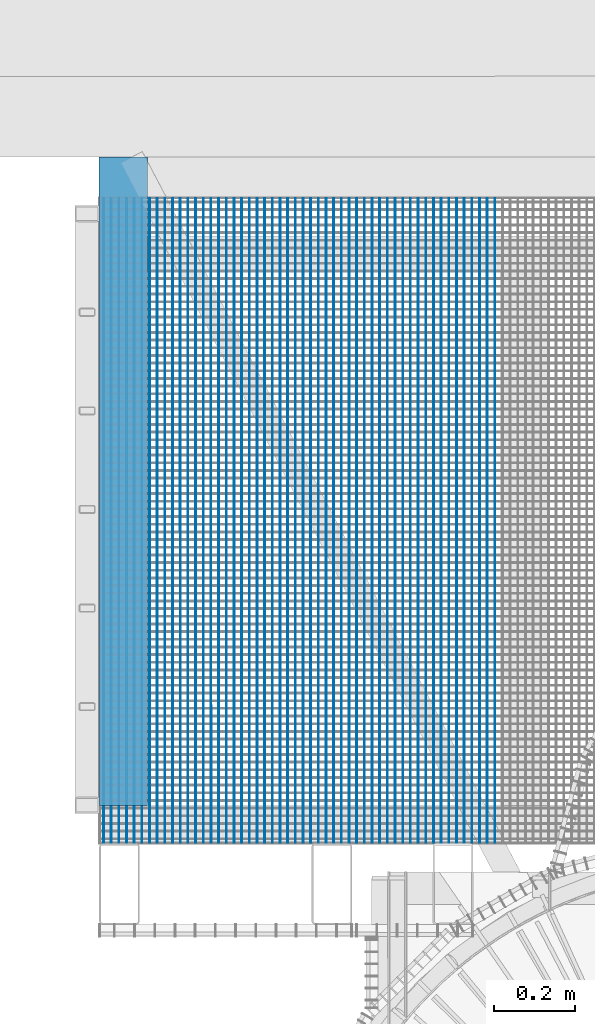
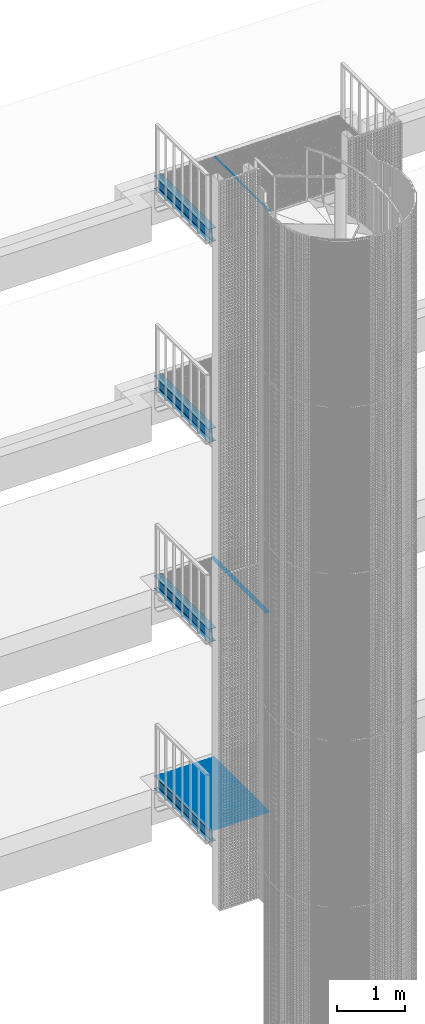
# One storey, part 80 of 1148: 59 beams, 7 elements without a shape of their own.
"""IFC2X3 building model written with IfcOpenShell, lengths in millimetres."""

from ifc_helpers import new_model, si_unit, frame, origin_with_axes, origin_2d_with_axis, place, context, subcontext, project, spatial, rectangle, i_section, extrude, material, type_object, element, aggregate, save


model = new_model("IFC2X3")

# Units and contexts
model_context = context("Model", 3, precision=1e-05, world=origin_with_axes())
body_context = subcontext(model_context, "Body", "Model", "MODEL_VIEW")
ifc_project = project(units=[si_unit("LENGTHUNIT", "METRE", prefix="MILLI"), si_unit("AREAUNIT", "SQUARE_METRE"), si_unit("VOLUMEUNIT", "CUBIC_METRE"), si_unit("MASSUNIT", "GRAM", prefix="KILO"), si_unit("TIMEUNIT", "SECOND"), si_unit("PLANEANGLEUNIT", "RADIAN"), si_unit("SOLIDANGLEUNIT", "STERADIAN"), si_unit("THERMODYNAMICTEMPERATUREUNIT", "DEGREE_CELSIUS"), si_unit("LUMINOUSINTENSITYUNIT", "LUMEN")], contexts=[model_context])

# Site, building, storey
site_placement = place(None, origin_with_axes())
site = spatial("IfcSite", under=ifc_project, at=site_placement, Name="Undefined", CompositionType="ELEMENT")
building_placement = place(site_placement, origin_with_axes())
building = spatial("IfcBuilding", under=site, at=building_placement, Name="Undefined", CompositionType="ELEMENT")
storey_placement = place(building_placement, origin_with_axes())
storey = spatial("IfcBuildingStorey", under=building, at=storey_placement, Name="Undefined", CompositionType="ELEMENT", Elevation=0.0)

# Assembly, beam
assembly_1_placement = place(storey_placement, origin_with_axes())
assembly_1 = element("IfcElementAssembly", 1, at=assembly_1_placement, inside=storey, Name="BORDURE", AssemblyPlace="NOTDEFINED", PredefinedType="NOTDEFINED")
ifc_material = material(Name="STEEL/S235JR")
beam_type_1 = type_object("IfcBeamType", Name="PL2*10", PredefinedType="NOTDEFINED")
beam_1_placement = place(assembly_1_placement, frame((-569.924575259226, 1101.99951347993, 17285.0), z_axis=(0.0, 0.0, 1.0), x_axis=(-4.50599999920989e-06, 0.999999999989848, 0.0)))
beam_1 = element("IfcBeam", 2, at=beam_1_placement, type_object=beam_type_1, material=ifc_material, Name="ENTRETOISE", context=body_context, shape_type="SweptSolid", body=[
    extrude(rectangle(XDim=2.0, YDim=10.0, at=origin_2d_with_axis()), frame((1596.0000000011, -1.35186458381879e-18, -7.27595761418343e-12), z_axis=(-1.0, 0.0, 0.0), x_axis=(0.0, -1.0, 0.0)), (0.0, 0.0, 1.0), 1596.0),
])
aggregate(assembly_1, [beam_1])

# Assembly, beams
assembly_2_placement = place(storey_placement, origin_with_axes())
assembly_2 = element("IfcElementAssembly", 3, at=assembly_2_placement, inside=storey, Name="BORDURE", AssemblyPlace="NOTDEFINED", PredefinedType="NOTDEFINED")
beam_2_placement = place(assembly_2_placement, frame((-626.924575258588, 1101.99923292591, 10085.0), z_axis=(0.0, 0.0, 1.0), x_axis=(-4.50599999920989e-06, 0.999999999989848, 0.0)))
beam_2 = element("IfcBeam", 4, at=beam_2_placement, type_object=beam_type_1, material=ifc_material, Name="ENTRETOISE", context=body_context, shape_type="SweptSolid", body=[
    extrude(rectangle(XDim=2.0, YDim=10.0, at=origin_2d_with_axis()), frame((1596.0000000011, -1.35186458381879e-18, -7.27595761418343e-12), z_axis=(-1.0, 0.0, 0.0), x_axis=(0.0, -1.0, 0.0)), (0.0, 0.0, 1.0), 1596.0),
])
beam_3_placement = place(assembly_2_placement, frame((-607.9245752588, 1101.99932644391, 10085.0), z_axis=(0.0, 0.0, 1.0), x_axis=(-4.50599999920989e-06, 0.999999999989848, 0.0)))
beam_3 = element("IfcBeam", 5, at=beam_3_placement, type_object=beam_type_1, material=ifc_material, Name="ENTRETOISE", context=body_context, shape_type="SweptSolid", body=[
    extrude(rectangle(XDim=2.0, YDim=10.0, at=origin_2d_with_axis()), frame((1596.0000000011, -1.35186458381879e-18, -7.27595761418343e-12), z_axis=(-1.0, 0.0, 0.0), x_axis=(0.0, -1.0, 0.0)), (0.0, 0.0, 1.0), 1596.0),
])
beam_4_placement = place(assembly_2_placement, frame((-588.924575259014, 1101.99941996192, 10085.0), z_axis=(0.0, 0.0, 1.0), x_axis=(-4.50599999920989e-06, 0.999999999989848, 0.0)))
beam_4 = element("IfcBeam", 6, at=beam_4_placement, type_object=beam_type_1, material=ifc_material, Name="ENTRETOISE", context=body_context, shape_type="SweptSolid", body=[
    extrude(rectangle(XDim=2.0, YDim=10.0, at=origin_2d_with_axis()), frame((1596.0000000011, -1.35186458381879e-18, -7.27595761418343e-12), z_axis=(-1.0, 0.0, 0.0), x_axis=(0.0, -1.0, 0.0)), (0.0, 0.0, 1.0), 1596.0),
])
aggregate(assembly_2, [beam_2, beam_3, beam_4])

assembly_3_placement = place(storey_placement, origin_with_axes())
assembly_3 = element("IfcElementAssembly", 7, at=assembly_3_placement, inside=storey, Name="BORDURE", AssemblyPlace="NOTDEFINED", PredefinedType="NOTDEFINED")
beam_5_placement = place(assembly_3_placement, frame((-1538.92457524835, 1101.99474406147, 6485.0), z_axis=(0.0, 0.0, 1.0), x_axis=(-4.50599999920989e-06, 0.999999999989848, 0.0)))
beam_5 = element("IfcBeam", 8, at=beam_5_placement, type_object=beam_type_1, material=ifc_material, Name="ENTRETOISE", context=body_context, shape_type="SweptSolid", body=[
    extrude(rectangle(XDim=2.0, YDim=10.0, at=origin_2d_with_axis()), frame((1596.0000000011, -1.35186458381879e-18, -7.27595761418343e-12), z_axis=(-1.0, 0.0, 0.0), x_axis=(0.0, -1.0, 0.0)), (0.0, 0.0, 1.0), 1596.0),
])
beam_6_placement = place(assembly_3_placement, frame((-1519.92457524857, 1101.99483757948, 6485.0), z_axis=(0.0, 0.0, 1.0), x_axis=(-4.50599999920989e-06, 0.999999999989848, 0.0)))
beam_6 = element("IfcBeam", 9, at=beam_6_placement, type_object=beam_type_1, material=ifc_material, Name="ENTRETOISE", context=body_context, shape_type="SweptSolid", body=[
    extrude(rectangle(XDim=2.0, YDim=10.0, at=origin_2d_with_axis()), frame((1596.0000000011, -1.35186458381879e-18, -7.27595761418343e-12), z_axis=(-1.0, 0.0, 0.0), x_axis=(0.0, -1.0, 0.0)), (0.0, 0.0, 1.0), 1596.0),
])
beam_7_placement = place(assembly_3_placement, frame((-1500.92457524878, 1101.99493109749, 6485.0), z_axis=(0.0, 0.0, 1.0), x_axis=(-4.50599999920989e-06, 0.999999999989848, 0.0)))
beam_7 = element("IfcBeam", 10, at=beam_7_placement, type_object=beam_type_1, material=ifc_material, Name="ENTRETOISE", context=body_context, shape_type="SweptSolid", body=[
    extrude(rectangle(XDim=2.0, YDim=10.0, at=origin_2d_with_axis()), frame((1596.0000000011, -1.35186458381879e-18, -7.27595761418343e-12), z_axis=(-1.0, 0.0, 0.0), x_axis=(0.0, -1.0, 0.0)), (0.0, 0.0, 1.0), 1596.0),
])
beam_8_placement = place(assembly_3_placement, frame((-1481.92457524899, 1101.9950246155, 6485.0), z_axis=(0.0, 0.0, 1.0), x_axis=(-4.50599999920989e-06, 0.999999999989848, 0.0)))
beam_8 = element("IfcBeam", 11, at=beam_8_placement, type_object=beam_type_1, material=ifc_material, Name="ENTRETOISE", context=body_context, shape_type="SweptSolid", body=[
    extrude(rectangle(XDim=2.0, YDim=10.0, at=origin_2d_with_axis()), frame((1596.0000000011, -1.35186458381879e-18, -7.27595761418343e-12), z_axis=(-1.0, 0.0, 0.0), x_axis=(0.0, -1.0, 0.0)), (0.0, 0.0, 1.0), 1596.0),
])
beam_9_placement = place(assembly_3_placement, frame((-1462.92457524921, 1101.99511813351, 6485.0), z_axis=(0.0, 0.0, 1.0), x_axis=(-4.50599999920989e-06, 0.999999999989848, 0.0)))
beam_9 = element("IfcBeam", 12, at=beam_9_placement, type_object=beam_type_1, material=ifc_material, Name="ENTRETOISE", context=body_context, shape_type="SweptSolid", body=[
    extrude(rectangle(XDim=2.0, YDim=10.0, at=origin_2d_with_axis()), frame((1596.0000000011, -1.35186458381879e-18, -7.27595761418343e-12), z_axis=(-1.0, 0.0, 0.0), x_axis=(0.0, -1.0, 0.0)), (0.0, 0.0, 1.0), 1596.0),
])
beam_10_placement = place(assembly_3_placement, frame((-1443.92457524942, 1101.99521165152, 6485.0), z_axis=(0.0, 0.0, 1.0), x_axis=(-4.50599999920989e-06, 0.999999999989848, 0.0)))
beam_10 = element("IfcBeam", 13, at=beam_10_placement, type_object=beam_type_1, material=ifc_material, Name="ENTRETOISE", context=body_context, shape_type="SweptSolid", body=[
    extrude(rectangle(XDim=2.0, YDim=10.0, at=origin_2d_with_axis()), frame((1596.0000000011, -1.35186458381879e-18, -7.27595761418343e-12), z_axis=(-1.0, 0.0, 0.0), x_axis=(0.0, -1.0, 0.0)), (0.0, 0.0, 1.0), 1596.0),
])
beam_11_placement = place(assembly_3_placement, frame((-1424.92457524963, 1101.99530516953, 6485.0), z_axis=(0.0, 0.0, 1.0), x_axis=(-4.50599999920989e-06, 0.999999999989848, 0.0)))
beam_11 = element("IfcBeam", 14, at=beam_11_placement, type_object=beam_type_1, material=ifc_material, Name="ENTRETOISE", context=body_context, shape_type="SweptSolid", body=[
    extrude(rectangle(XDim=2.0, YDim=10.0, at=origin_2d_with_axis()), frame((1596.0000000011, -1.35186458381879e-18, -7.27595761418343e-12), z_axis=(-1.0, 0.0, 0.0), x_axis=(0.0, -1.0, 0.0)), (0.0, 0.0, 1.0), 1596.0),
])
beam_12_placement = place(assembly_3_placement, frame((-1405.92457524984, 1101.99539868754, 6485.0), z_axis=(0.0, 0.0, 1.0), x_axis=(-4.50599999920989e-06, 0.999999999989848, 0.0)))
beam_12 = element("IfcBeam", 15, at=beam_12_placement, type_object=beam_type_1, material=ifc_material, Name="ENTRETOISE", context=body_context, shape_type="SweptSolid", body=[
    extrude(rectangle(XDim=2.0, YDim=10.0, at=origin_2d_with_axis()), frame((1596.0000000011, -1.35186458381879e-18, -7.27595761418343e-12), z_axis=(-1.0, 0.0, 0.0), x_axis=(0.0, -1.0, 0.0)), (0.0, 0.0, 1.0), 1596.0),
])
beam_13_placement = place(assembly_3_placement, frame((-1386.92457525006, 1101.99549220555, 6485.0), z_axis=(0.0, 0.0, 1.0), x_axis=(-4.50599999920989e-06, 0.999999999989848, 0.0)))
beam_13 = element("IfcBeam", 16, at=beam_13_placement, type_object=beam_type_1, material=ifc_material, Name="ENTRETOISE", context=body_context, shape_type="SweptSolid", body=[
    extrude(rectangle(XDim=2.0, YDim=10.0, at=origin_2d_with_axis()), frame((1596.0000000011, -1.35186458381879e-18, -7.27595761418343e-12), z_axis=(-1.0, 0.0, 0.0), x_axis=(0.0, -1.0, 0.0)), (0.0, 0.0, 1.0), 1596.0),
])
beam_14_placement = place(assembly_3_placement, frame((-1367.92457525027, 1101.99558572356, 6485.0), z_axis=(0.0, 0.0, 1.0), x_axis=(-4.50599999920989e-06, 0.999999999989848, 0.0)))
beam_14 = element("IfcBeam", 17, at=beam_14_placement, type_object=beam_type_1, material=ifc_material, Name="ENTRETOISE", context=body_context, shape_type="SweptSolid", body=[
    extrude(rectangle(XDim=2.0, YDim=10.0, at=origin_2d_with_axis()), frame((1596.0000000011, -1.35186458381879e-18, -7.27595761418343e-12), z_axis=(-1.0, 0.0, 0.0), x_axis=(0.0, -1.0, 0.0)), (0.0, 0.0, 1.0), 1596.0),
])
beam_15_placement = place(assembly_3_placement, frame((-1348.92457525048, 1101.99567924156, 6485.0), z_axis=(0.0, 0.0, 1.0), x_axis=(-4.50599999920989e-06, 0.999999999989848, 0.0)))
beam_15 = element("IfcBeam", 18, at=beam_15_placement, type_object=beam_type_1, material=ifc_material, Name="ENTRETOISE", context=body_context, shape_type="SweptSolid", body=[
    extrude(rectangle(XDim=2.0, YDim=10.0, at=origin_2d_with_axis()), frame((1596.0000000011, -1.35186458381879e-18, -7.27595761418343e-12), z_axis=(-1.0, 0.0, 0.0), x_axis=(0.0, -1.0, 0.0)), (0.0, 0.0, 1.0), 1596.0),
])
beam_16_placement = place(assembly_3_placement, frame((-1329.9245752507, 1101.99577275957, 6485.0), z_axis=(0.0, 0.0, 1.0), x_axis=(-4.50599999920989e-06, 0.999999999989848, 0.0)))
beam_16 = element("IfcBeam", 19, at=beam_16_placement, type_object=beam_type_1, material=ifc_material, Name="ENTRETOISE", context=body_context, shape_type="SweptSolid", body=[
    extrude(rectangle(XDim=2.0, YDim=10.0, at=origin_2d_with_axis()), frame((1596.0000000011, -1.35186458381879e-18, -7.27595761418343e-12), z_axis=(-1.0, 0.0, 0.0), x_axis=(0.0, -1.0, 0.0)), (0.0, 0.0, 1.0), 1596.0),
])
beam_17_placement = place(assembly_3_placement, frame((-1310.92457525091, 1101.99586627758, 6485.0), z_axis=(0.0, 0.0, 1.0), x_axis=(-4.50599999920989e-06, 0.999999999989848, 0.0)))
beam_17 = element("IfcBeam", 20, at=beam_17_placement, type_object=beam_type_1, material=ifc_material, Name="ENTRETOISE", context=body_context, shape_type="SweptSolid", body=[
    extrude(rectangle(XDim=2.0, YDim=10.0, at=origin_2d_with_axis()), frame((1596.0000000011, -1.35186458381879e-18, -7.27595761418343e-12), z_axis=(-1.0, 0.0, 0.0), x_axis=(0.0, -1.0, 0.0)), (0.0, 0.0, 1.0), 1596.0),
])
beam_18_placement = place(assembly_3_placement, frame((-1291.92457525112, 1101.99595979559, 6485.0), z_axis=(0.0, 0.0, 1.0), x_axis=(-4.50599999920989e-06, 0.999999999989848, 0.0)))
beam_18 = element("IfcBeam", 21, at=beam_18_placement, type_object=beam_type_1, material=ifc_material, Name="ENTRETOISE", context=body_context, shape_type="SweptSolid", body=[
    extrude(rectangle(XDim=2.0, YDim=10.0, at=origin_2d_with_axis()), frame((1596.0000000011, -1.35186458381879e-18, -7.27595761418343e-12), z_axis=(-1.0, 0.0, 0.0), x_axis=(0.0, -1.0, 0.0)), (0.0, 0.0, 1.0), 1596.0),
])
beam_19_placement = place(assembly_3_placement, frame((-1272.92457525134, 1101.9960533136, 6485.0), z_axis=(0.0, 0.0, 1.0), x_axis=(-4.50599999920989e-06, 0.999999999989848, 0.0)))
beam_19 = element("IfcBeam", 22, at=beam_19_placement, type_object=beam_type_1, material=ifc_material, Name="ENTRETOISE", context=body_context, shape_type="SweptSolid", body=[
    extrude(rectangle(XDim=2.0, YDim=10.0, at=origin_2d_with_axis()), frame((1596.0000000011, -1.35186458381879e-18, -7.27595761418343e-12), z_axis=(-1.0, 0.0, 0.0), x_axis=(0.0, -1.0, 0.0)), (0.0, 0.0, 1.0), 1596.0),
])
beam_20_placement = place(assembly_3_placement, frame((-1253.92457525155, 1101.99614683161, 6485.0), z_axis=(0.0, 0.0, 1.0), x_axis=(-4.50599999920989e-06, 0.999999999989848, 0.0)))
beam_20 = element("IfcBeam", 23, at=beam_20_placement, type_object=beam_type_1, material=ifc_material, Name="ENTRETOISE", context=body_context, shape_type="SweptSolid", body=[
    extrude(rectangle(XDim=2.0, YDim=10.0, at=origin_2d_with_axis()), frame((1596.0000000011, -1.35186458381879e-18, -7.27595761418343e-12), z_axis=(-1.0, 0.0, 0.0), x_axis=(0.0, -1.0, 0.0)), (0.0, 0.0, 1.0), 1596.0),
])
beam_21_placement = place(assembly_3_placement, frame((-1234.92457525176, 1101.99624034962, 6485.0), z_axis=(0.0, 0.0, 1.0), x_axis=(-4.50599999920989e-06, 0.999999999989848, 0.0)))
beam_21 = element("IfcBeam", 24, at=beam_21_placement, type_object=beam_type_1, material=ifc_material, Name="ENTRETOISE", context=body_context, shape_type="SweptSolid", body=[
    extrude(rectangle(XDim=2.0, YDim=10.0, at=origin_2d_with_axis()), frame((1596.0000000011, -1.35186458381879e-18, -7.27595761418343e-12), z_axis=(-1.0, 0.0, 0.0), x_axis=(0.0, -1.0, 0.0)), (0.0, 0.0, 1.0), 1596.0),
])
beam_22_placement = place(assembly_3_placement, frame((-1215.92457525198, 1101.99633386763, 6485.0), z_axis=(0.0, 0.0, 1.0), x_axis=(-4.50599999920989e-06, 0.999999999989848, 0.0)))
beam_22 = element("IfcBeam", 25, at=beam_22_placement, type_object=beam_type_1, material=ifc_material, Name="ENTRETOISE", context=body_context, shape_type="SweptSolid", body=[
    extrude(rectangle(XDim=2.0, YDim=10.0, at=origin_2d_with_axis()), frame((1596.0000000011, -1.35186458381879e-18, -7.27595761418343e-12), z_axis=(-1.0, 0.0, 0.0), x_axis=(0.0, -1.0, 0.0)), (0.0, 0.0, 1.0), 1596.0),
])
beam_23_placement = place(assembly_3_placement, frame((-1196.92457525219, 1101.99642738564, 6485.0), z_axis=(0.0, 0.0, 1.0), x_axis=(-4.50599999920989e-06, 0.999999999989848, 0.0)))
beam_23 = element("IfcBeam", 26, at=beam_23_placement, type_object=beam_type_1, material=ifc_material, Name="ENTRETOISE", context=body_context, shape_type="SweptSolid", body=[
    extrude(rectangle(XDim=2.0, YDim=10.0, at=origin_2d_with_axis()), frame((1596.0000000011, -1.35186458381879e-18, -7.27595761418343e-12), z_axis=(-1.0, 0.0, 0.0), x_axis=(0.0, -1.0, 0.0)), (0.0, 0.0, 1.0), 1596.0),
])
beam_24_placement = place(assembly_3_placement, frame((-1177.9245752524, 1101.99652090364, 6485.0), z_axis=(0.0, 0.0, 1.0), x_axis=(-4.50599999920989e-06, 0.999999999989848, 0.0)))
beam_24 = element("IfcBeam", 27, at=beam_24_placement, type_object=beam_type_1, material=ifc_material, Name="ENTRETOISE", context=body_context, shape_type="SweptSolid", body=[
    extrude(rectangle(XDim=2.0, YDim=10.0, at=origin_2d_with_axis()), frame((1596.0000000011, -1.35186458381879e-18, -7.27595761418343e-12), z_axis=(-1.0, 0.0, 0.0), x_axis=(0.0, -1.0, 0.0)), (0.0, 0.0, 1.0), 1596.0),
])
beam_25_placement = place(assembly_3_placement, frame((-1158.92457525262, 1101.99661442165, 6485.0), z_axis=(0.0, 0.0, 1.0), x_axis=(-4.50599999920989e-06, 0.999999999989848, 0.0)))
beam_25 = element("IfcBeam", 28, at=beam_25_placement, type_object=beam_type_1, material=ifc_material, Name="ENTRETOISE", context=body_context, shape_type="SweptSolid", body=[
    extrude(rectangle(XDim=2.0, YDim=10.0, at=origin_2d_with_axis()), frame((1596.0000000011, -1.35186458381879e-18, -7.27595761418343e-12), z_axis=(-1.0, 0.0, 0.0), x_axis=(0.0, -1.0, 0.0)), (0.0, 0.0, 1.0), 1596.0),
])
beam_26_placement = place(assembly_3_placement, frame((-1139.92457525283, 1101.99670793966, 6485.0), z_axis=(0.0, 0.0, 1.0), x_axis=(-4.50599999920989e-06, 0.999999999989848, 0.0)))
beam_26 = element("IfcBeam", 29, at=beam_26_placement, type_object=beam_type_1, material=ifc_material, Name="ENTRETOISE", context=body_context, shape_type="SweptSolid", body=[
    extrude(rectangle(XDim=2.0, YDim=10.0, at=origin_2d_with_axis()), frame((1596.0000000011, -1.35186458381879e-18, -7.27595761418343e-12), z_axis=(-1.0, 0.0, 0.0), x_axis=(0.0, -1.0, 0.0)), (0.0, 0.0, 1.0), 1596.0),
])
beam_27_placement = place(assembly_3_placement, frame((-1120.92457525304, 1101.99680145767, 6485.0), z_axis=(0.0, 0.0, 1.0), x_axis=(-4.50599999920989e-06, 0.999999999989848, 0.0)))
beam_27 = element("IfcBeam", 30, at=beam_27_placement, type_object=beam_type_1, material=ifc_material, Name="ENTRETOISE", context=body_context, shape_type="SweptSolid", body=[
    extrude(rectangle(XDim=2.0, YDim=10.0, at=origin_2d_with_axis()), frame((1596.0000000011, -1.35186458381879e-18, -7.27595761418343e-12), z_axis=(-1.0, 0.0, 0.0), x_axis=(0.0, -1.0, 0.0)), (0.0, 0.0, 1.0), 1596.0),
])
beam_28_placement = place(assembly_3_placement, frame((-1101.92457525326, 1101.99689497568, 6485.0), z_axis=(0.0, 0.0, 1.0), x_axis=(-4.50599999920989e-06, 0.999999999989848, 0.0)))
beam_28 = element("IfcBeam", 31, at=beam_28_placement, type_object=beam_type_1, material=ifc_material, Name="ENTRETOISE", context=body_context, shape_type="SweptSolid", body=[
    extrude(rectangle(XDim=2.0, YDim=10.0, at=origin_2d_with_axis()), frame((1596.0000000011, -1.35186458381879e-18, -7.27595761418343e-12), z_axis=(-1.0, 0.0, 0.0), x_axis=(0.0, -1.0, 0.0)), (0.0, 0.0, 1.0), 1596.0),
])
beam_29_placement = place(assembly_3_placement, frame((-1082.92457525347, 1101.99698849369, 6485.0), z_axis=(0.0, 0.0, 1.0), x_axis=(-4.50599999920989e-06, 0.999999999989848, 0.0)))
beam_29 = element("IfcBeam", 32, at=beam_29_placement, type_object=beam_type_1, material=ifc_material, Name="ENTRETOISE", context=body_context, shape_type="SweptSolid", body=[
    extrude(rectangle(XDim=2.0, YDim=10.0, at=origin_2d_with_axis()), frame((1596.0000000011, -1.35186458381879e-18, -7.27595761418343e-12), z_axis=(-1.0, 0.0, 0.0), x_axis=(0.0, -1.0, 0.0)), (0.0, 0.0, 1.0), 1596.0),
])
beam_30_placement = place(assembly_3_placement, frame((-1063.92457525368, 1101.9970820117, 6485.0), z_axis=(0.0, 0.0, 1.0), x_axis=(-4.50599999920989e-06, 0.999999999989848, 0.0)))
beam_30 = element("IfcBeam", 33, at=beam_30_placement, type_object=beam_type_1, material=ifc_material, Name="ENTRETOISE", context=body_context, shape_type="SweptSolid", body=[
    extrude(rectangle(XDim=2.0, YDim=10.0, at=origin_2d_with_axis()), frame((1596.0000000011, -1.35186458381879e-18, -7.27595761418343e-12), z_axis=(-1.0, 0.0, 0.0), x_axis=(0.0, -1.0, 0.0)), (0.0, 0.0, 1.0), 1596.0),
])
beam_31_placement = place(assembly_3_placement, frame((-1044.9245752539, 1101.99717552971, 6485.0), z_axis=(0.0, 0.0, 1.0), x_axis=(-4.50599999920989e-06, 0.999999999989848, 0.0)))
beam_31 = element("IfcBeam", 34, at=beam_31_placement, type_object=beam_type_1, material=ifc_material, Name="ENTRETOISE", context=body_context, shape_type="SweptSolid", body=[
    extrude(rectangle(XDim=2.0, YDim=10.0, at=origin_2d_with_axis()), frame((1596.0000000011, -1.35186458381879e-18, -7.27595761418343e-12), z_axis=(-1.0, 0.0, 0.0), x_axis=(0.0, -1.0, 0.0)), (0.0, 0.0, 1.0), 1596.0),
])
beam_32_placement = place(assembly_3_placement, frame((-1025.92457525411, 1101.99726904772, 6485.0), z_axis=(0.0, 0.0, 1.0), x_axis=(-4.50599999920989e-06, 0.999999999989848, 0.0)))
beam_32 = element("IfcBeam", 35, at=beam_32_placement, type_object=beam_type_1, material=ifc_material, Name="ENTRETOISE", context=body_context, shape_type="SweptSolid", body=[
    extrude(rectangle(XDim=2.0, YDim=10.0, at=origin_2d_with_axis()), frame((1596.0000000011, -1.35186458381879e-18, -7.27595761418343e-12), z_axis=(-1.0, 0.0, 0.0), x_axis=(0.0, -1.0, 0.0)), (0.0, 0.0, 1.0), 1596.0),
])
beam_33_placement = place(assembly_3_placement, frame((-1006.92457525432, 1101.99736256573, 6485.0), z_axis=(0.0, 0.0, 1.0), x_axis=(-4.50599999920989e-06, 0.999999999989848, 0.0)))
beam_33 = element("IfcBeam", 36, at=beam_33_placement, type_object=beam_type_1, material=ifc_material, Name="ENTRETOISE", context=body_context, shape_type="SweptSolid", body=[
    extrude(rectangle(XDim=2.0, YDim=10.0, at=origin_2d_with_axis()), frame((1596.0000000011, -1.35186458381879e-18, -7.27595761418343e-12), z_axis=(-1.0, 0.0, 0.0), x_axis=(0.0, -1.0, 0.0)), (0.0, 0.0, 1.0), 1596.0),
])
beam_34_placement = place(assembly_3_placement, frame((-987.924575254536, 1101.99745608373, 6485.0), z_axis=(0.0, 0.0, 1.0), x_axis=(-4.50599999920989e-06, 0.999999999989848, 0.0)))
beam_34 = element("IfcBeam", 37, at=beam_34_placement, type_object=beam_type_1, material=ifc_material, Name="ENTRETOISE", context=body_context, shape_type="SweptSolid", body=[
    extrude(rectangle(XDim=2.0, YDim=10.0, at=origin_2d_with_axis()), frame((1596.0000000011, -1.35186458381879e-18, -7.27595761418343e-12), z_axis=(-1.0, 0.0, 0.0), x_axis=(0.0, -1.0, 0.0)), (0.0, 0.0, 1.0), 1596.0),
])
beam_35_placement = place(assembly_3_placement, frame((-968.924575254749, 1101.99754960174, 6485.0), z_axis=(0.0, 0.0, 1.0), x_axis=(-4.50599999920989e-06, 0.999999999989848, 0.0)))
beam_35 = element("IfcBeam", 38, at=beam_35_placement, type_object=beam_type_1, material=ifc_material, Name="ENTRETOISE", context=body_context, shape_type="SweptSolid", body=[
    extrude(rectangle(XDim=2.0, YDim=10.0, at=origin_2d_with_axis()), frame((1596.0000000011, -1.35186458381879e-18, -7.27595761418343e-12), z_axis=(-1.0, 0.0, 0.0), x_axis=(0.0, -1.0, 0.0)), (0.0, 0.0, 1.0), 1596.0),
])
beam_36_placement = place(assembly_3_placement, frame((-949.924575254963, 1101.99764311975, 6485.0), z_axis=(0.0, 0.0, 1.0), x_axis=(-4.50599999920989e-06, 0.999999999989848, 0.0)))
beam_36 = element("IfcBeam", 39, at=beam_36_placement, type_object=beam_type_1, material=ifc_material, Name="ENTRETOISE", context=body_context, shape_type="SweptSolid", body=[
    extrude(rectangle(XDim=2.0, YDim=10.0, at=origin_2d_with_axis()), frame((1596.0000000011, -1.35186458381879e-18, -7.27595761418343e-12), z_axis=(-1.0, 0.0, 0.0), x_axis=(0.0, -1.0, 0.0)), (0.0, 0.0, 1.0), 1596.0),
])
beam_37_placement = place(assembly_3_placement, frame((-930.924575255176, 1101.99773663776, 6485.0), z_axis=(0.0, 0.0, 1.0), x_axis=(-4.50599999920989e-06, 0.999999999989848, 0.0)))
beam_37 = element("IfcBeam", 40, at=beam_37_placement, type_object=beam_type_1, material=ifc_material, Name="ENTRETOISE", context=body_context, shape_type="SweptSolid", body=[
    extrude(rectangle(XDim=2.0, YDim=10.0, at=origin_2d_with_axis()), frame((1596.0000000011, -1.35186458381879e-18, -7.27595761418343e-12), z_axis=(-1.0, 0.0, 0.0), x_axis=(0.0, -1.0, 0.0)), (0.0, 0.0, 1.0), 1596.0),
])
beam_38_placement = place(assembly_3_placement, frame((-911.924575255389, 1101.99783015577, 6485.0), z_axis=(0.0, 0.0, 1.0), x_axis=(-4.50599999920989e-06, 0.999999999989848, 0.0)))
beam_38 = element("IfcBeam", 41, at=beam_38_placement, type_object=beam_type_1, material=ifc_material, Name="ENTRETOISE", context=body_context, shape_type="SweptSolid", body=[
    extrude(rectangle(XDim=2.0, YDim=10.0, at=origin_2d_with_axis()), frame((1596.0000000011, -1.35186458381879e-18, -7.27595761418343e-12), z_axis=(-1.0, 0.0, 0.0), x_axis=(0.0, -1.0, 0.0)), (0.0, 0.0, 1.0), 1596.0),
])
beam_39_placement = place(assembly_3_placement, frame((-892.924575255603, 1101.99792367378, 6485.0), z_axis=(0.0, 0.0, 1.0), x_axis=(-4.50599999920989e-06, 0.999999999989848, 0.0)))
beam_39 = element("IfcBeam", 42, at=beam_39_placement, type_object=beam_type_1, material=ifc_material, Name="ENTRETOISE", context=body_context, shape_type="SweptSolid", body=[
    extrude(rectangle(XDim=2.0, YDim=10.0, at=origin_2d_with_axis()), frame((1596.0000000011, -1.35186458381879e-18, -7.27595761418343e-12), z_axis=(-1.0, 0.0, 0.0), x_axis=(0.0, -1.0, 0.0)), (0.0, 0.0, 1.0), 1596.0),
])
beam_40_placement = place(assembly_3_placement, frame((-873.924575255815, 1101.99801719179, 6485.0), z_axis=(0.0, 0.0, 1.0), x_axis=(-4.50599999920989e-06, 0.999999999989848, 0.0)))
beam_40 = element("IfcBeam", 43, at=beam_40_placement, type_object=beam_type_1, material=ifc_material, Name="ENTRETOISE", context=body_context, shape_type="SweptSolid", body=[
    extrude(rectangle(XDim=2.0, YDim=10.0, at=origin_2d_with_axis()), frame((1596.0000000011, -1.35186458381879e-18, -7.27595761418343e-12), z_axis=(-1.0, 0.0, 0.0), x_axis=(0.0, -1.0, 0.0)), (0.0, 0.0, 1.0), 1596.0),
])
beam_41_placement = place(assembly_3_placement, frame((-854.92457525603, 1101.9981107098, 6485.0), z_axis=(0.0, 0.0, 1.0), x_axis=(-4.50599999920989e-06, 0.999999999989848, 0.0)))
beam_41 = element("IfcBeam", 44, at=beam_41_placement, type_object=beam_type_1, material=ifc_material, Name="ENTRETOISE", context=body_context, shape_type="SweptSolid", body=[
    extrude(rectangle(XDim=2.0, YDim=10.0, at=origin_2d_with_axis()), frame((1596.0000000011, -1.35186458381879e-18, -7.27595761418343e-12), z_axis=(-1.0, 0.0, 0.0), x_axis=(0.0, -1.0, 0.0)), (0.0, 0.0, 1.0), 1596.0),
])
beam_42_placement = place(assembly_3_placement, frame((-835.924575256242, 1101.99820422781, 6485.0), z_axis=(0.0, 0.0, 1.0), x_axis=(-4.50599999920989e-06, 0.999999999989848, 0.0)))
beam_42 = element("IfcBeam", 45, at=beam_42_placement, type_object=beam_type_1, material=ifc_material, Name="ENTRETOISE", context=body_context, shape_type="SweptSolid", body=[
    extrude(rectangle(XDim=2.0, YDim=10.0, at=origin_2d_with_axis()), frame((1596.0000000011, -1.35186458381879e-18, -7.27595761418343e-12), z_axis=(-1.0, 0.0, 0.0), x_axis=(0.0, -1.0, 0.0)), (0.0, 0.0, 1.0), 1596.0),
])
beam_43_placement = place(assembly_3_placement, frame((-816.924575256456, 1101.99829774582, 6485.0), z_axis=(0.0, 0.0, 1.0), x_axis=(-4.50599999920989e-06, 0.999999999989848, 0.0)))
beam_43 = element("IfcBeam", 46, at=beam_43_placement, type_object=beam_type_1, material=ifc_material, Name="ENTRETOISE", context=body_context, shape_type="SweptSolid", body=[
    extrude(rectangle(XDim=2.0, YDim=10.0, at=origin_2d_with_axis()), frame((1596.0000000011, -1.35186458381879e-18, -7.27595761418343e-12), z_axis=(-1.0, 0.0, 0.0), x_axis=(0.0, -1.0, 0.0)), (0.0, 0.0, 1.0), 1596.0),
])
beam_44_placement = place(assembly_3_placement, frame((-797.924575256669, 1101.99839126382, 6485.0), z_axis=(0.0, 0.0, 1.0), x_axis=(-4.50599999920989e-06, 0.999999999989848, 0.0)))
beam_44 = element("IfcBeam", 47, at=beam_44_placement, type_object=beam_type_1, material=ifc_material, Name="ENTRETOISE", context=body_context, shape_type="SweptSolid", body=[
    extrude(rectangle(XDim=2.0, YDim=10.0, at=origin_2d_with_axis()), frame((1596.0000000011, -1.35186458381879e-18, -7.27595761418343e-12), z_axis=(-1.0, 0.0, 0.0), x_axis=(0.0, -1.0, 0.0)), (0.0, 0.0, 1.0), 1596.0),
])
beam_45_placement = place(assembly_3_placement, frame((-778.924575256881, 1101.99848478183, 6485.0), z_axis=(0.0, 0.0, 1.0), x_axis=(-4.50599999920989e-06, 0.999999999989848, 0.0)))
beam_45 = element("IfcBeam", 48, at=beam_45_placement, type_object=beam_type_1, material=ifc_material, Name="ENTRETOISE", context=body_context, shape_type="SweptSolid", body=[
    extrude(rectangle(XDim=2.0, YDim=10.0, at=origin_2d_with_axis()), frame((1596.0000000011, -1.35186458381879e-18, -7.27595761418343e-12), z_axis=(-1.0, 0.0, 0.0), x_axis=(0.0, -1.0, 0.0)), (0.0, 0.0, 1.0), 1596.0),
])
beam_46_placement = place(assembly_3_placement, frame((-759.924575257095, 1101.99857829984, 6485.0), z_axis=(0.0, 0.0, 1.0), x_axis=(-4.50599999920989e-06, 0.999999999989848, 0.0)))
beam_46 = element("IfcBeam", 49, at=beam_46_placement, type_object=beam_type_1, material=ifc_material, Name="ENTRETOISE", context=body_context, shape_type="SweptSolid", body=[
    extrude(rectangle(XDim=2.0, YDim=10.0, at=origin_2d_with_axis()), frame((1596.0000000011, -1.35186458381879e-18, -7.27595761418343e-12), z_axis=(-1.0, 0.0, 0.0), x_axis=(0.0, -1.0, 0.0)), (0.0, 0.0, 1.0), 1596.0),
])
beam_47_placement = place(assembly_3_placement, frame((-740.924575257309, 1101.99867181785, 6485.0), z_axis=(0.0, 0.0, 1.0), x_axis=(-4.50599999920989e-06, 0.999999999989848, 0.0)))
beam_47 = element("IfcBeam", 50, at=beam_47_placement, type_object=beam_type_1, material=ifc_material, Name="ENTRETOISE", context=body_context, shape_type="SweptSolid", body=[
    extrude(rectangle(XDim=2.0, YDim=10.0, at=origin_2d_with_axis()), frame((1596.0000000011, -1.35186458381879e-18, -7.27595761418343e-12), z_axis=(-1.0, 0.0, 0.0), x_axis=(0.0, -1.0, 0.0)), (0.0, 0.0, 1.0), 1596.0),
])
beam_48_placement = place(assembly_3_placement, frame((-721.924575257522, 1101.99876533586, 6485.0), z_axis=(0.0, 0.0, 1.0), x_axis=(-4.50599999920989e-06, 0.999999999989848, 0.0)))
beam_48 = element("IfcBeam", 51, at=beam_48_placement, type_object=beam_type_1, material=ifc_material, Name="ENTRETOISE", context=body_context, shape_type="SweptSolid", body=[
    extrude(rectangle(XDim=2.0, YDim=10.0, at=origin_2d_with_axis()), frame((1596.0000000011, -1.35186458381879e-18, -7.27595761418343e-12), z_axis=(-1.0, 0.0, 0.0), x_axis=(0.0, -1.0, 0.0)), (0.0, 0.0, 1.0), 1596.0),
])
beam_49_placement = place(assembly_3_placement, frame((-702.924575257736, 1101.99885885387, 6485.0), z_axis=(0.0, 0.0, 1.0), x_axis=(-4.50599999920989e-06, 0.999999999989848, 0.0)))
beam_49 = element("IfcBeam", 52, at=beam_49_placement, type_object=beam_type_1, material=ifc_material, Name="ENTRETOISE", context=body_context, shape_type="SweptSolid", body=[
    extrude(rectangle(XDim=2.0, YDim=10.0, at=origin_2d_with_axis()), frame((1596.0000000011, -1.35186458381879e-18, -7.27595761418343e-12), z_axis=(-1.0, 0.0, 0.0), x_axis=(0.0, -1.0, 0.0)), (0.0, 0.0, 1.0), 1596.0),
])
beam_50_placement = place(assembly_3_placement, frame((-683.924575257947, 1101.99895237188, 6485.0), z_axis=(0.0, 0.0, 1.0), x_axis=(-4.50599999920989e-06, 0.999999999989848, 0.0)))
beam_50 = element("IfcBeam", 53, at=beam_50_placement, type_object=beam_type_1, material=ifc_material, Name="ENTRETOISE", context=body_context, shape_type="SweptSolid", body=[
    extrude(rectangle(XDim=2.0, YDim=10.0, at=origin_2d_with_axis()), frame((1596.0000000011, -1.35186458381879e-18, -7.27595761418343e-12), z_axis=(-1.0, 0.0, 0.0), x_axis=(0.0, -1.0, 0.0)), (0.0, 0.0, 1.0), 1596.0),
])
beam_51_placement = place(assembly_3_placement, frame((-664.924575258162, 1101.99904588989, 6485.0), z_axis=(0.0, 0.0, 1.0), x_axis=(-4.50599999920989e-06, 0.999999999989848, 0.0)))
beam_51 = element("IfcBeam", 54, at=beam_51_placement, type_object=beam_type_1, material=ifc_material, Name="ENTRETOISE", context=body_context, shape_type="SweptSolid", body=[
    extrude(rectangle(XDim=2.0, YDim=10.0, at=origin_2d_with_axis()), frame((1596.0000000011, -1.35186458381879e-18, -7.27595761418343e-12), z_axis=(-1.0, 0.0, 0.0), x_axis=(0.0, -1.0, 0.0)), (0.0, 0.0, 1.0), 1596.0),
])
beam_52_placement = place(assembly_3_placement, frame((-645.924575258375, 1101.9991394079, 6485.0), z_axis=(0.0, 0.0, 1.0), x_axis=(-4.50599999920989e-06, 0.999999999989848, 0.0)))
beam_52 = element("IfcBeam", 55, at=beam_52_placement, type_object=beam_type_1, material=ifc_material, Name="ENTRETOISE", context=body_context, shape_type="SweptSolid", body=[
    extrude(rectangle(XDim=2.0, YDim=10.0, at=origin_2d_with_axis()), frame((1596.0000000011, -1.35186458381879e-18, -7.27595761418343e-12), z_axis=(-1.0, 0.0, 0.0), x_axis=(0.0, -1.0, 0.0)), (0.0, 0.0, 1.0), 1596.0),
])
beam_53_placement = place(assembly_3_placement, frame((-626.924575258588, 1101.9992329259, 6485.0), z_axis=(0.0, 0.0, 1.0), x_axis=(-4.50599999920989e-06, 0.999999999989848, 0.0)))
beam_53 = element("IfcBeam", 56, at=beam_53_placement, type_object=beam_type_1, material=ifc_material, Name="ENTRETOISE", context=body_context, shape_type="SweptSolid", body=[
    extrude(rectangle(XDim=2.0, YDim=10.0, at=origin_2d_with_axis()), frame((1596.0000000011, -1.35186458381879e-18, -7.27595761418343e-12), z_axis=(-1.0, 0.0, 0.0), x_axis=(0.0, -1.0, 0.0)), (0.0, 0.0, 1.0), 1596.0),
])
beam_54_placement = place(assembly_3_placement, frame((-607.9245752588, 1101.99932644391, 6485.0), z_axis=(0.0, 0.0, 1.0), x_axis=(-4.50599999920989e-06, 0.999999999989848, 0.0)))
beam_54 = element("IfcBeam", 57, at=beam_54_placement, type_object=beam_type_1, material=ifc_material, Name="ENTRETOISE", context=body_context, shape_type="SweptSolid", body=[
    extrude(rectangle(XDim=2.0, YDim=10.0, at=origin_2d_with_axis()), frame((1596.0000000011, -1.35186458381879e-18, -7.27595761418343e-12), z_axis=(-1.0, 0.0, 0.0), x_axis=(0.0, -1.0, 0.0)), (0.0, 0.0, 1.0), 1596.0),
])
beam_55_placement = place(assembly_3_placement, frame((-588.924575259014, 1101.99941996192, 6485.0), z_axis=(0.0, 0.0, 1.0), x_axis=(-4.50599999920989e-06, 0.999999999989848, 0.0)))
beam_55 = element("IfcBeam", 58, at=beam_55_placement, type_object=beam_type_1, material=ifc_material, Name="ENTRETOISE", context=body_context, shape_type="SweptSolid", body=[
    extrude(rectangle(XDim=2.0, YDim=10.0, at=origin_2d_with_axis()), frame((1596.0000000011, -1.35186458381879e-18, -7.27595761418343e-12), z_axis=(-1.0, 0.0, 0.0), x_axis=(0.0, -1.0, 0.0)), (0.0, 0.0, 1.0), 1596.0),
])
aggregate(assembly_3, [beam_5, beam_6, beam_7, beam_8, beam_9, beam_10, beam_11, beam_12, beam_13, beam_14, beam_15, beam_16, beam_17, beam_18, beam_19, beam_20, beam_21, beam_22, beam_23, beam_24, beam_25, beam_26, beam_27, beam_28, beam_29, beam_30, beam_31, beam_32, beam_33, beam_34, beam_35, beam_36, beam_37, beam_38, beam_39, beam_40, beam_41, beam_42, beam_43, beam_44, beam_45, beam_46, beam_47, beam_48, beam_49, beam_50, beam_51, beam_52, beam_53, beam_54, beam_55])

# Assembly, beam
assembly_4_placement = place(storey_placement, origin_with_axes())
assembly_4 = element("IfcElementAssembly", 59, at=assembly_4_placement, inside=storey, AssemblyPlace="NOTDEFINED", PredefinedType="NOTDEFINED")
beam_type_2 = type_object("IfcBeamType", Name="IPE240", PredefinedType="NOTDEFINED")
beam_56_placement = place(assembly_4_placement, frame((-1489.92041016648, 1194.99494343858, 17120.0), z_axis=(0.0, 0.0, 1.0), x_axis=(-4.50599999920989e-06, 0.999999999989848, 0.0)))
beam_56 = element("IfcBeam", 60, at=beam_56_placement, type_object=beam_type_2, material=ifc_material, Name="EXISTANTS", context=body_context, shape_type="SweptSolid", body=[
    extrude(i_section(OverallWidth=120.0, OverallDepth=240.0, WebThickness=6.199999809, FlangeThickness=9.800000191, FilletRadius=15.0, at=origin_2d_with_axis()), frame((1605.0004478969, 0.0, 3.63797880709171e-12), z_axis=(-1.0, 0.0, 0.0), x_axis=(0.0, -1.0, 0.0)), (0.0, 0.0, 1.0), 1605.0),
])
aggregate(assembly_4, [beam_56])

assembly_5_placement = place(storey_placement, origin_with_axes())
assembly_5 = element("IfcElementAssembly", 61, at=assembly_5_placement, inside=storey, AssemblyPlace="NOTDEFINED", PredefinedType="NOTDEFINED")
beam_57_placement = place(assembly_5_placement, frame((-1489.92041016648, 1194.99494343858, 13520.0), z_axis=(0.0, 0.0, 1.0), x_axis=(-4.50599999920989e-06, 0.999999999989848, 0.0)))
beam_57 = element("IfcBeam", 62, at=beam_57_placement, type_object=beam_type_2, material=ifc_material, Name="EXISTANTS", context=body_context, shape_type="SweptSolid", body=[
    extrude(i_section(OverallWidth=120.0, OverallDepth=240.0, WebThickness=6.199999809, FlangeThickness=9.800000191, FilletRadius=15.0, at=origin_2d_with_axis()), frame((1605.0004478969, 0.0, 3.63797880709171e-12), z_axis=(-1.0, 0.0, 0.0), x_axis=(0.0, -1.0, 0.0)), (0.0, 0.0, 1.0), 1605.0),
])
aggregate(assembly_5, [beam_57])

assembly_6_placement = place(storey_placement, origin_with_axes())
assembly_6 = element("IfcElementAssembly", 63, at=assembly_6_placement, inside=storey, AssemblyPlace="NOTDEFINED", PredefinedType="NOTDEFINED")
beam_58_placement = place(assembly_6_placement, frame((-1489.92041016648, 1194.99494343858, 9920.0), z_axis=(0.0, 0.0, 1.0), x_axis=(-4.50599999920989e-06, 0.999999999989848, 0.0)))
beam_58 = element("IfcBeam", 64, at=beam_58_placement, type_object=beam_type_2, material=ifc_material, Name="EXISTANTS", context=body_context, shape_type="SweptSolid", body=[
    extrude(i_section(OverallWidth=120.0, OverallDepth=240.0, WebThickness=6.199999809, FlangeThickness=9.800000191, FilletRadius=15.0, at=origin_2d_with_axis()), frame((1605.0004478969, 0.0, 3.63797880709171e-12), z_axis=(-1.0, 0.0, 0.0), x_axis=(0.0, -1.0, 0.0)), (0.0, 0.0, 1.0), 1605.0),
])
aggregate(assembly_6, [beam_58])

assembly_7_placement = place(storey_placement, origin_with_axes())
assembly_7 = element("IfcElementAssembly", 65, at=assembly_7_placement, inside=storey, AssemblyPlace="NOTDEFINED", PredefinedType="NOTDEFINED")
beam_59_placement = place(assembly_7_placement, frame((-1489.92041016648, 1194.99494343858, 6320.0), z_axis=(0.0, 0.0, 1.0), x_axis=(-4.50599999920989e-06, 0.999999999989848, 0.0)))
beam_59 = element("IfcBeam", 66, at=beam_59_placement, type_object=beam_type_2, material=ifc_material, Name="EXISTANTS", context=body_context, shape_type="SweptSolid", body=[
    extrude(i_section(OverallWidth=120.0, OverallDepth=240.0, WebThickness=6.199999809, FlangeThickness=9.800000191, FilletRadius=15.0, at=origin_2d_with_axis()), frame((1605.0004478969, 0.0, 3.63797880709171e-12), z_axis=(-1.0, 0.0, 0.0), x_axis=(0.0, -1.0, 0.0)), (0.0, 0.0, 1.0), 1605.0),
])
aggregate(assembly_7, [beam_59])

save(model, "model.ifc")
